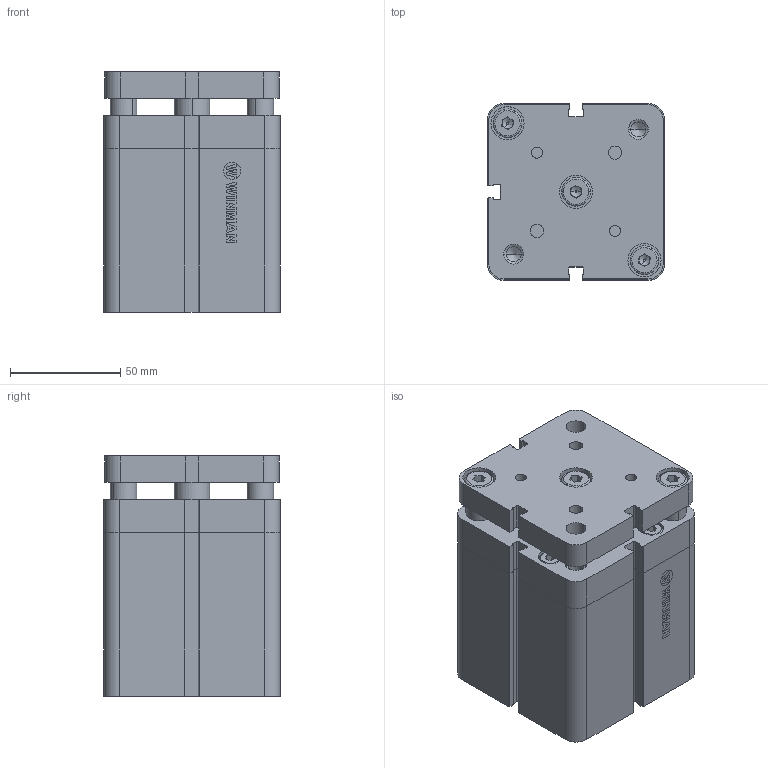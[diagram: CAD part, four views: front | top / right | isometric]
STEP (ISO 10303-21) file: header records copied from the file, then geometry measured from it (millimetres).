
FILE_DESCRIPTION (( 'STEP AP214' ), '1' );
FILE_NAME ('WINC-G-063-0040 (MDMY).STEP', '2017-12-20T14:27:36', ( 'Hidtek' ), ( '' ), 'SwSTEP 2.0', 'SolidWorks 2016', '' );
FILE_SCHEMA (( 'AUTOMOTIVE_DESIGN' ));
Length unit declared in the file: millimetre
Products named in the file (3): Group2^WINC-G-063-0040 (MDMY); Group1^WINC-G-063-0040 (MDMY); WINC-G-063-0040 (MDMY)
Assembly tree (2 placements, depth 2):
  WINC-G-063-0040 (MDMY)
    Group1^WINC-G-063-0040 (MDMY)
    Group2^WINC-G-063-0040 (MDMY)
Bounding box: 80 x 80 x 108.8 mm (x, y, z)
Volume: 496673.3 mm3; surface area: 115274.3 mm2
Topology: 13 solids, 13 shells, 504 faces, 1270 edges, 808 vertices
Faces by surface type: plane 288, cylinder 148, cone 42, bspline 26
Entity records: 16765 total; most frequent: CARTESIAN_POINT 3259, DIRECTION 2570, ORIENTED_EDGE 2524, EDGE_CURVE 1262, AXIS2_PLACEMENT_3D 863, VECTOR 844, LINE 844, VERTEX_POINT 808
